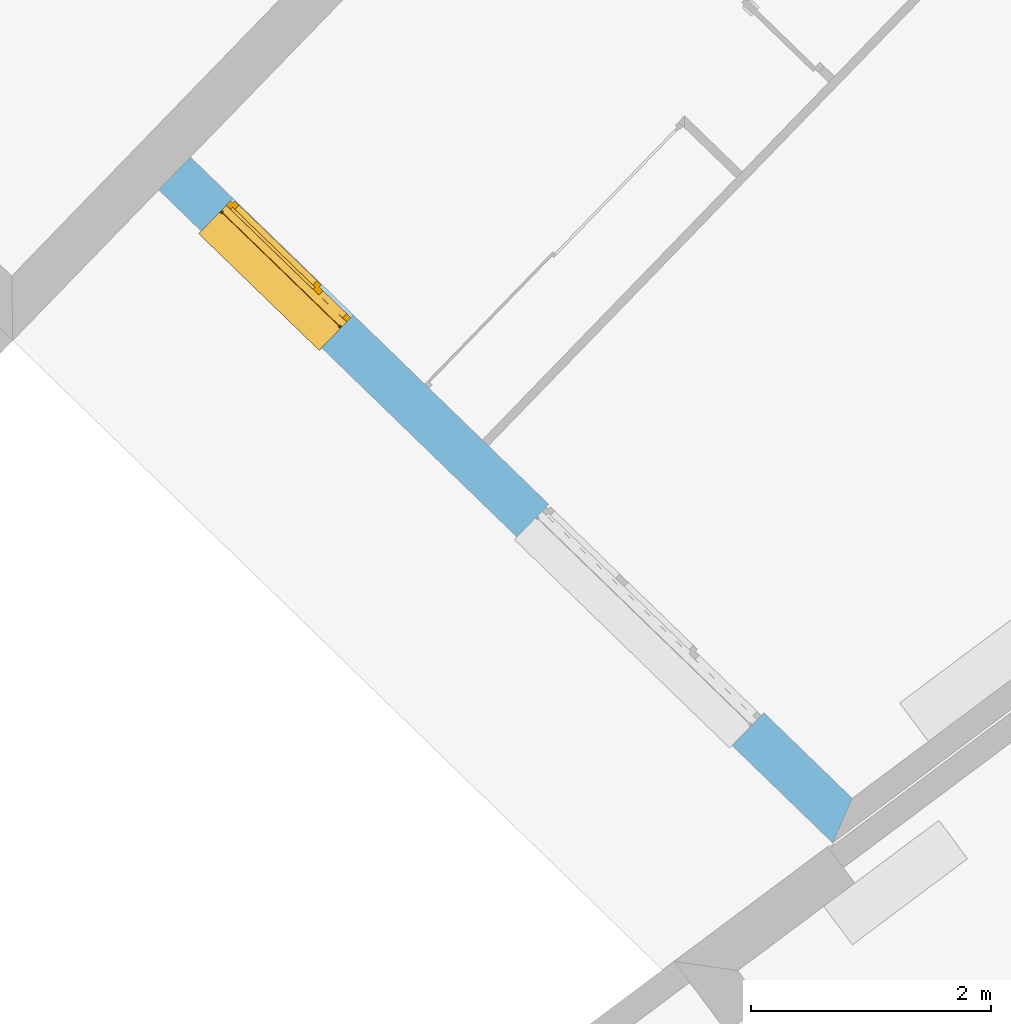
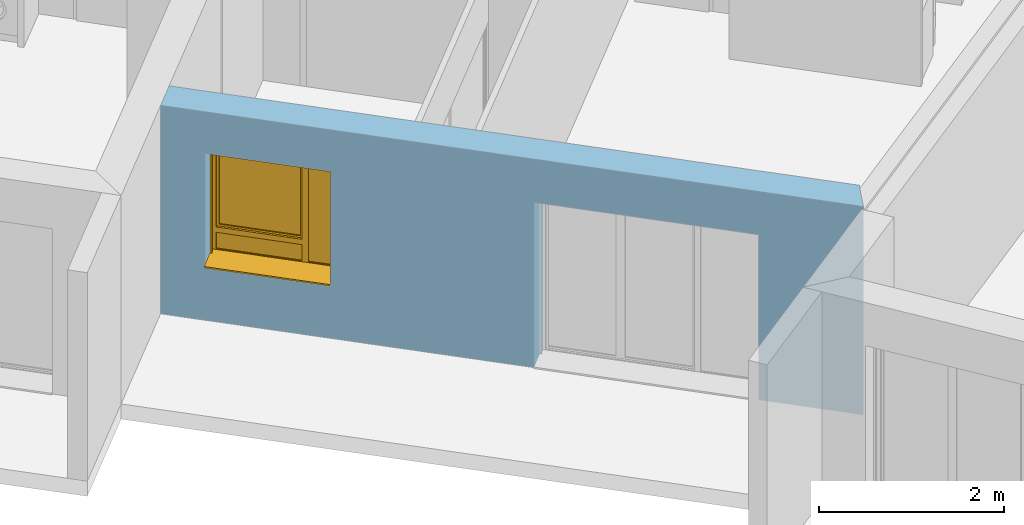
# One storey, part 3 of 195: 1 window, 2 openings, plus 1 element that does not belong to this part.
"""IFC2X3 building model written with IfcOpenShell, lengths in metres."""

from ifc_helpers import new_model, entity, si_unit, converted_unit, derived_unit, money_unit, direction, frame, origin_with_axes, place, context, subcontext, project, spatial, polyline, outline, extrude, open_shell, faceted_brep, surface_model, source, transform, mapped, material, layer, layer_set, layer_usage, type_object, element, fill, save


model = new_model("IFC2X3")

# Units and contexts
model_context = context("Model", 3, precision=1e-05, world=origin_with_axes(), true_north=direction((0.0, 1.0)))
body_context = subcontext(model_context, "Body", "Model", "MODEL_VIEW")
ifc_project = project(units=[si_unit("LENGTHUNIT", "METRE"), si_unit("AREAUNIT", "SQUARE_METRE"), si_unit("VOLUMEUNIT", "CUBIC_METRE"), converted_unit("PLANEANGLEUNIT", "DEGREE", entity("IfcPlaneAngleMeasure", 0.0174532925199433), si_unit("PLANEANGLEUNIT", "RADIAN"), dimensions=[0, 0, 0, 0, 0, 0, 0]), money_unit("CHF"), converted_unit("TIMEUNIT", "Year", entity("IfcTimeMeasure", 31557600.0), si_unit("TIMEUNIT", "SECOND"), dimensions=[0, 0, 1, 0, 0, 0, 0]), si_unit("MASSUNIT", "GRAM", prefix="KILO"), si_unit("THERMODYNAMICTEMPERATUREUNIT", "DEGREE_CELSIUS"), si_unit("LUMINOUSINTENSITYUNIT", "LUMEN"), si_unit("ENERGYUNIT", "JOULE", prefix="MEGA"), derived_unit("THERMALCONDUCTANCEUNIT", [(si_unit("POWERUNIT", "WATT"), 1), (si_unit("LENGTHUNIT", "METRE"), -1), (si_unit("THERMODYNAMICTEMPERATUREUNIT", "KELVIN"), -1)]), derived_unit("SPECIFICHEATCAPACITYUNIT", [(si_unit("ENERGYUNIT", "JOULE"), 1), (si_unit("MASSUNIT", "GRAM", prefix="KILO"), -1), (si_unit("THERMODYNAMICTEMPERATUREUNIT", "KELVIN"), -1)]), derived_unit("MASSDENSITYUNIT", [(si_unit("MASSUNIT", "GRAM", prefix="KILO"), 1), (si_unit("VOLUMEUNIT", "CUBIC_METRE"), -1)])], contexts=[model_context])

# Site, building, storey
site_placement = place(None, origin_with_axes())
site = spatial("IfcSite", under=ifc_project, at=site_placement, Name="Site", CompositionType="ELEMENT")
building_placement = place(site_placement, origin_with_axes())
building = spatial("IfcBuilding", under=site, at=building_placement, Name="Bâtiment", CompositionType="ELEMENT")
storey_placement = place(building_placement, origin_with_axes())
storey = spatial("IfcBuildingStorey", under=building, at=storey_placement, Name="rdc", CompositionType="ELEMENT", Elevation=0.0)

# Wall, openings, window
ifc_material_1 = material(Name="Parpaing 312445824")
ifc_layer_1 = layer(ifc_material_1, 0.22, ventilated="UNKNOWN")
ifc_material_2 = material(Name="Isolant styromousse 301821074")
ifc_layer_2 = layer(ifc_material_2, 0.16, ventilated="UNKNOWN")
ifc_layer_set = layer_set([ifc_layer_1, ifc_layer_2], Name="isol int 22+16 0836643197")
ifc_layer_usage = layer_usage(ifc_layer_set, "AXIS2", "POSITIVE", 0.0)
wall_type = type_object("IfcWallType", Name="isol int 22+16 0836643197 380", PredefinedType="NOTDEFINED")
wall_placement = place(storey_placement, frame((9523.941571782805, -1070.182928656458, 57.7), z_axis=(0.0, 0.0, 1.0), x_axis=(0.71817639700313, -0.6958610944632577, 0.0)))
wall = element("IfcWallStandardCase", 1, at=wall_placement, inside=storey, type_object=wall_type, material=ifc_layer_usage, Name="Mur-113", context=body_context, shape_type="SweptSolid", body=[
    extrude(outline(polyline([(2.100932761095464e-10, 0.0), (7.831839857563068, 0.0), (7.690439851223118, 0.3799999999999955), (2.296474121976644e-10, 0.3799999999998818), (2.100932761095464e-10, 0.0)])), origin_with_axes(), (0.0, 0.0, 1.0), 2.75),
])
opening_1_placement = place(wall_placement, frame((1.194223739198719, 0.0, 0.7000000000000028), z_axis=(0.0, 0.0, 1.0), x_axis=(1.0, 0.0, 0.0)))
opening_1 = element("IfcOpeningElement", 2, at=opening_1_placement, cuts=wall, Name="Fen-045", context=body_context, shape_type="Brep", body=[
    faceted_brep([(-0.7000000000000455, 0.480000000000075, 1.5), (0.7000000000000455, 0.4800000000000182, 1.5), (0.7000000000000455, 4.193732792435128, 1.5), (-0.6999999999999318, 4.193732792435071, 1.5), (-0.7000000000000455, 0.480000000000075, 1.700000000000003), (0.7000000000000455, 0.4800000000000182, 1.700000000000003), (0.6999999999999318, 0.3000000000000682, 1.5), (0.7000000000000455, 0.3000000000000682, 0.0), (0.7000000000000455, 4.193732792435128, 0.0), (-0.6999999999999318, 4.193732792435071, 0.0), (-0.7000000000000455, 0.2999999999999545, 1.5), (-0.7000000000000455, 0.3000000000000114, 0.0), (-0.7000000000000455, 0.2200000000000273, 1.5), (-0.7000000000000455, 0.2200000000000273, 1.700000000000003), (0.7000000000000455, 0.2199999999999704, 1.700000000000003), (0.7000000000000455, 0.2199999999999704, 1.5), (0.7000000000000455, -3.813732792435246, 1.5), (0.7000000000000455, -3.813732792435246, 0.0), (-0.6999999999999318, -3.81373279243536, 0.0), (-0.6999999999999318, -3.81373279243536, 1.5)], [[[0, 1, 2, 3]], [[1, 0, 4, 5]], [[1, 6, 7, 8, 2]], [[2, 8, 9, 3]], [[10, 0, 3, 9, 11]], [[0, 10, 12, 13, 4]], [[14, 5, 4, 13]], [[6, 1, 5, 14, 15]], [[6, 15, 16, 17, 7]], [[7, 11, 9, 8]], [[12, 10, 11, 18, 19]], [[12, 15, 14, 13]], [[15, 12, 19, 16]], [[19, 18, 17, 16]], [[11, 7, 17, 18]]]),
])
opening_2_placement = place(wall_placement, frame((5.413572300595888, 0.0, 0.0), z_axis=(0.0, 0.0, 1.0), x_axis=(1.0, 0.0, 0.0)))
element("IfcOpeningElement", 3, at=opening_2_placement, cuts=wall, Name="Fen-045", context=body_context, shape_type="Brep", body=[
    faceted_brep([(-1.25, 0.4799999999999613, 2.18), (1.249999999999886, 0.4799999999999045, 2.18), (1.25, 4.193732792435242, 2.18), (-1.250000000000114, 4.193732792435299, 2.18), (-1.25, 0.4799999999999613, 2.380000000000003), (1.249999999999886, 0.4799999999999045, 2.380000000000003), (1.249999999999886, 0.2999999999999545, 2.18), (1.249999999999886, 0.2999999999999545, 0.0), (1.25, 4.193732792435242, 0.0), (-1.250000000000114, 4.193732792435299, 0.0), (-1.250000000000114, 0.3000000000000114, 2.18), (-1.250000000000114, 0.3000000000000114, 0.0), (-1.250000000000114, 0.2199999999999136, 2.18), (-1.250000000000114, 0.2199999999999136, 2.380000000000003), (1.249999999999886, 0.2199999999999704, 2.380000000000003), (1.249999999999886, 0.2199999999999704, 2.18), (1.249999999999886, -3.813732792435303, 2.18), (1.249999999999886, -3.813732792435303, 0.0), (-1.250000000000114, -3.813732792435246, 0.0), (-1.250000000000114, -3.813732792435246, 2.18)], [[[0, 1, 2, 3]], [[1, 0, 4, 5]], [[1, 6, 7, 8, 2]], [[2, 8, 9, 3]], [[10, 0, 3, 9, 11]], [[0, 10, 12, 13, 4]], [[14, 5, 4, 13]], [[6, 1, 5, 14, 15]], [[6, 15, 16, 17, 7]], [[7, 11, 9, 8]], [[12, 10, 11, 18, 19]], [[12, 15, 14, 13]], [[15, 12, 19, 16]], [[19, 18, 17, 16]], [[11, 7, 17, 18]]]),
])
window_style = type_object("IfcWindowStyle", Name="Fenêtre variable 27", ConstructionType="NOTDEFINED", OperationType="TRIPLE_PANEL_RIGHT", ParameterTakesPrecedence=False, Sizeable=False)
shared_shape = source(origin_with_axes(), body_context, "Body", "SurfaceModel", [
    surface_model("IfcShellBasedSurfaceModel", [(-0.7, -0.05100000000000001, 0.05), (-0.7, -0.05100000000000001, 0.04), (0.7, -0.05100000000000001, 0.04000000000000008), (0.7, -0.05100000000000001, 0.05000000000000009), (-0.7, -0.3799999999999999, 0.02899999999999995), (0.7, -0.3799999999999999, 0.02900000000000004), (-0.7, -0.3799999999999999, 0.008999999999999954), (0.7, -0.3799999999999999, 0.00900000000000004), (-0.7, -0.3699999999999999, 0.01899999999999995), (0.7, -0.3699999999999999, 0.01900000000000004)], [open_shell([[[0, 1, 2, 3]], [[1, 4, 5, 2]], [[4, 6, 7, 5]], [[6, 8, 9, 7]]])]),
    faceted_brep([(-0.7, -0.13, 1.7), (-0.697, -0.13, 1.7), (-0.697, 0.13, 1.7), (-0.7, 0.13, 1.7), (-0.7, -0.13, 1.5), (-0.697, -0.13, 1.5), (-0.697, 0.13, 1.5), (-0.7, 0.13, 1.5)], [[[0, 1, 2, 3]], [[4, 5, 1, 0]], [[1, 5, 6, 2]], [[3, 2, 6, 7]], [[0, 3, 7, 4]], [[7, 6, 5, 4]]]),
    faceted_brep([(0.6970000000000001, -0.1299999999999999, 1.7), (0.7000000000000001, -0.1299999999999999, 1.7), (0.7000000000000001, 0.1300000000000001, 1.7), (0.6970000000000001, 0.1300000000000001, 1.7), (0.6970000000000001, -0.1299999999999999, 1.5), (0.7000000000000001, -0.1299999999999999, 1.5), (0.7000000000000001, 0.1300000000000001, 1.5), (0.6970000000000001, 0.1300000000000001, 1.5)], [[[0, 1, 2, 3]], [[4, 5, 1, 0]], [[1, 5, 6, 2]], [[3, 2, 6, 7]], [[0, 3, 7, 4]], [[7, 6, 5, 4]]]),
    faceted_brep([(-0.697, -0.13, 1.5), (0.697, -0.1299999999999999, 1.5), (0.697, -0.1299999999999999, 1.7), (-0.697, -0.13, 1.7), (-0.697, -0.127, 1.5), (0.697, -0.1269999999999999, 1.5), (0.697, -0.1269999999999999, 1.697), (0.697, 0.1270000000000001, 1.697), (0.697, 0.1270000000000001, 1.503), (0.697, -0.1079999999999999, 1.503), (0.697, -0.1079999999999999, 1.5), (0.697, 0.1300000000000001, 1.5), (0.697, 0.1300000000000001, 1.7), (-0.697, 0.13, 1.7), (-0.697, 0.13, 1.5), (-0.697, -0.108, 1.5), (-0.697, -0.108, 1.503), (-0.697, 0.127, 1.503), (-0.697, 0.127, 1.697), (-0.697, -0.127, 1.697)], [[[0, 1, 2, 3]], [[4, 5, 1, 0]], [[1, 5, 6, 7, 8, 9, 10, 11, 12, 2]], [[3, 2, 12, 13]], [[0, 3, 13, 14, 15, 16, 17, 18, 19, 4]], [[19, 6, 5, 4]], [[18, 7, 6, 19]], [[17, 8, 7, 18]], [[16, 9, 8, 17]], [[15, 10, 9, 16]], [[14, 11, 10, 15]], [[13, 12, 11, 14]]]),
    faceted_brep([(-0.694, -0.08075423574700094, 1.585760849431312), (-0.694, -0.08200000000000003, 1.6), (-0.694, -0.0807542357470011, 1.614239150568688), (-0.694, -0.07705479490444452, 1.628045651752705), (-0.694, -0.07101408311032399, 1.641), (-0.694, -0.06281564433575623, 1.652708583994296), (-0.694, -0.05270858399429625, 1.662815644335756), (-0.694, -0.04100000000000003, 1.671014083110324), (-0.694, -0.02804565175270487, 1.677054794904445), (-0.694, -0.01423915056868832, 1.680754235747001), (-0.694, 0.0, 1.682), (-0.694, 0.01423915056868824, 1.680754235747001), (-0.694, 0.02804565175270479, 1.677054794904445), (-0.694, 0.04099999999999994, 1.671014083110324), (-0.694, 0.05270858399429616, 1.662815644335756), (-0.694, 0.06281564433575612, 1.652708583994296), (-0.694, 0.07101408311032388, 1.641), (-0.694, 0.0770547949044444, 1.628045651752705), (-0.694, 0.08075423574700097, 1.614239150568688), (-0.694, 0.0819999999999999, 1.6), (-0.694, 0.08075423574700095, 1.585760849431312), (-0.694, 0.07705479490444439, 1.571954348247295), (-0.694, 0.07101408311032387, 1.559), (-0.694, 0.06281564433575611, 1.547291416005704), (-0.694, 0.05270858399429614, 1.537184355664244), (-0.694, 0.04099999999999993, 1.528985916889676), (-0.694, 0.02804565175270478, 1.522945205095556), (-0.694, 0.01423915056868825, 1.519245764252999), (-0.694, 0.0, 1.518), (-0.694, -0.01423915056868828, 1.519245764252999), (-0.694, -0.02804565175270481, 1.522945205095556), (-0.694, -0.04099999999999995, 1.528985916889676), (-0.694, -0.05270858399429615, 1.537184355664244), (-0.694, -0.06281564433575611, 1.547291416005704), (-0.694, -0.07101408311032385, 1.559), (-0.694, -0.07705479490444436, 1.571954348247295), (0.694, -0.08075423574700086, 1.585760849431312), (0.694, -0.08199999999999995, 1.6), (0.694, -0.08075423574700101, 1.614239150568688), (0.694, -0.07705479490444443, 1.628045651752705), (0.694, -0.07101408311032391, 1.641), (0.694, -0.06281564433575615, 1.652708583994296), (0.694, -0.05270858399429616, 1.662815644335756), (0.694, -0.04099999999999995, 1.671014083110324), (0.694, -0.02804565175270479, 1.677054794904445), (0.694, -0.01423915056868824, 1.680754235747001), (0.694, 0.0, 1.682), (0.694, 0.01423915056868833, 1.680754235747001), (0.694, 0.02804565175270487, 1.677054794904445), (0.694, 0.04100000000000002, 1.671014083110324), (0.694, 0.05270858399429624, 1.662815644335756), (0.694, 0.0628156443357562, 1.652708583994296), (0.694, 0.07101408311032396, 1.641), (0.694, 0.07705479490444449, 1.628045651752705), (0.694, 0.08075423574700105, 1.614239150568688), (0.694, 0.08199999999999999, 1.6), (0.694, 0.08075423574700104, 1.585760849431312), (0.694, 0.07705479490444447, 1.571954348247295), (0.694, 0.07101408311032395, 1.559), (0.694, 0.06281564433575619, 1.547291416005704), (0.694, 0.05270858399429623, 1.537184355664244), (0.694, 0.04100000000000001, 1.528985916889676), (0.694, 0.02804565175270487, 1.522945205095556), (0.694, 0.01423915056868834, 1.519245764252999), (0.694, 0.0, 1.518), (0.694, -0.0142391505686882, 1.519245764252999), (0.694, -0.02804565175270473, 1.522945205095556), (0.694, -0.04099999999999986, 1.528985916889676), (0.694, -0.05270858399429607, 1.537184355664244), (0.694, -0.06281564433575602, 1.547291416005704), (0.694, -0.07101408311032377, 1.559), (0.694, -0.07705479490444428, 1.571954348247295)], [[[0, 1, 2, 3, 4, 5, 6, 7, 8, 9, 10, 11, 12, 13, 14, 15, 16, 17, 18, 19, 20, 21, 22, 23, 24, 25, 26, 27, 28, 29, 30, 31, 32, 33, 34, 35]], [[0, 36, 37, 1]], [[1, 37, 38, 2]], [[2, 38, 39, 3]], [[3, 39, 40, 4]], [[4, 40, 41, 5]], [[5, 41, 42, 6]], [[6, 42, 43, 7]], [[7, 43, 44, 8]], [[8, 44, 45, 9]], [[9, 45, 46, 10]], [[10, 46, 47, 11]], [[11, 47, 48, 12]], [[12, 48, 49, 13]], [[13, 49, 50, 14]], [[14, 50, 51, 15]], [[15, 51, 52, 16]], [[16, 52, 53, 17]], [[17, 53, 54, 18]], [[18, 54, 55, 19]], [[19, 55, 56, 20]], [[20, 56, 57, 21]], [[21, 57, 58, 22]], [[22, 58, 59, 23]], [[23, 59, 60, 24]], [[24, 60, 61, 25]], [[25, 61, 62, 26]], [[26, 62, 63, 27]], [[27, 63, 64, 28]], [[28, 64, 65, 29]], [[29, 65, 66, 30]], [[30, 66, 67, 31]], [[31, 67, 68, 32]], [[32, 68, 69, 33]], [[33, 69, 70, 34]], [[34, 70, 71, 35]], [[35, 71, 36, 0]], [[36, 71, 70, 69, 68, 67, 66, 65, 64, 63, 62, 61, 60, 59, 58, 57, 56, 55, 54, 53, 52, 51, 50, 49, 48, 47, 46, 45, 44, 43, 42, 41, 40, 39, 38, 37]]]),
    faceted_brep([(0.7, -0.105, 0.03), (0.7, -0.1049999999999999, 1.5), (0.7, -0.1299999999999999, 1.5), (0.7, -0.13, 0.03), (0.6749999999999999, -0.105, 0.03), (0.6749999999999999, -0.1049999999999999, 1.5), (0.6749999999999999, -0.1079999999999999, 1.5), (0.697, -0.1079999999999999, 1.5), (0.697, -0.1269999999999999, 1.5), (0.6749999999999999, -0.1269999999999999, 1.5), (0.6749999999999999, -0.1299999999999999, 1.5), (0.6749999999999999, -0.13, 0.03), (0.6749999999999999, -0.127, 0.03), (0.697, -0.127, 0.03), (0.697, -0.108, 0.03), (0.6749999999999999, -0.108, 0.03)], [[[0, 1, 2, 3]], [[4, 5, 1, 0]], [[1, 5, 6, 7, 8, 9, 10, 2]], [[3, 2, 10, 11]], [[0, 3, 11, 12, 13, 14, 15, 4]], [[15, 6, 5, 4]], [[14, 7, 6, 15]], [[13, 8, 7, 14]], [[12, 9, 8, 13]], [[11, 10, 9, 12]]]),
    faceted_brep([(-0.7, -0.105, 0.03), (-0.7, -0.13, 0.03), (-0.7, -0.1299999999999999, 1.5), (-0.7, -0.1049999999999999, 1.5), (-0.6749999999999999, -0.105, 0.03), (-0.6749999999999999, -0.108, 0.03), (-0.697, -0.108, 0.03), (-0.697, -0.127, 0.03), (-0.6749999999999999, -0.127, 0.03), (-0.6749999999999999, -0.13, 0.03), (-0.6749999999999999, -0.1299999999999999, 1.5), (-0.6749999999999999, -0.1269999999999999, 1.5), (-0.697, -0.1269999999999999, 1.5), (-0.697, -0.1079999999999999, 1.5), (-0.6749999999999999, -0.1079999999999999, 1.5), (-0.6749999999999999, -0.1049999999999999, 1.5)], [[[0, 1, 2, 3]], [[0, 4, 5, 6, 7, 8, 9, 1]], [[1, 9, 10, 2]], [[3, 2, 10, 11, 12, 13, 14, 15]], [[4, 0, 3, 15]], [[5, 4, 15, 14]], [[6, 5, 14, 13]], [[7, 6, 13, 12]], [[8, 7, 12, 11]], [[9, 8, 11, 10]]]),
    surface_model("IfcShellBasedSurfaceModel", [(-0.697, -0.115, 1.6), (0.697, -0.1149999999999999, 1.6), (0.697, -0.1199999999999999, 1.6), (-0.697, -0.12, 1.6), (-0.697, -0.115, 1.6), (-0.697, -0.12, 1.6), (0.697, -0.12, 1.6), (0.697, -0.1149999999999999, 1.6)], [open_shell([[[0, 1, 2, 3]], [[4, 5, 6, 7]]])]),
    faceted_brep([(-0.697, -0.115, 1.6), (0.697, -0.1149999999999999, 1.6), (0.697, -0.1166666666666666, 1.583333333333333), (-0.697, -0.1166666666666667, 1.583333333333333), (-0.697, -0.12, 1.6), (0.697, -0.1199999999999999, 1.6), (0.697, -0.1216666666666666, 1.583333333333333), (0.697, -0.1216666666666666, 1.566666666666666), (0.697, -0.1199999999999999, 1.55), (0.697, -0.1149999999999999, 1.55), (0.697, -0.1166666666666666, 1.566666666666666), (-0.697, -0.1166666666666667, 1.566666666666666), (-0.697, -0.115, 1.55), (-0.697, -0.12, 1.55), (-0.697, -0.1216666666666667, 1.566666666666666), (-0.697, -0.1216666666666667, 1.583333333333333)], [[[0, 1, 2, 3]], [[4, 5, 1, 0]], [[1, 5, 6, 7, 8, 9, 10, 2]], [[3, 2, 10, 11]], [[0, 3, 11, 12, 13, 14, 15, 4]], [[15, 6, 5, 4]], [[14, 7, 6, 15]], [[13, 8, 7, 14]], [[12, 9, 8, 13]], [[11, 10, 9, 12]]]),
    faceted_brep([(-0.697, -0.115, 1.55), (0.697, -0.1149999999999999, 1.55), (0.697, -0.1166666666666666, 1.533333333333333), (-0.697, -0.1166666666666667, 1.533333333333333), (-0.697, -0.12, 1.55), (0.697, -0.1199999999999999, 1.55), (0.697, -0.1216666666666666, 1.533333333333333), (0.697, -0.1216666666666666, 1.516666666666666), (0.697, -0.1199999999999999, 1.5), (0.697, -0.1149999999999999, 1.5), (0.697, -0.1166666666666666, 1.516666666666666), (-0.697, -0.1166666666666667, 1.516666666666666), (-0.697, -0.115, 1.5), (-0.697, -0.12, 1.5), (-0.697, -0.1216666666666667, 1.516666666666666), (-0.697, -0.1216666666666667, 1.533333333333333)], [[[0, 1, 2, 3]], [[4, 5, 1, 0]], [[1, 5, 6, 7, 8, 9, 10, 2]], [[3, 2, 10, 11]], [[0, 3, 11, 12, 13, 14, 15, 4]], [[15, 6, 5, 4]], [[14, 7, 6, 15]], [[13, 8, 7, 14]], [[12, 9, 8, 13]], [[11, 10, 9, 12]]]),
    faceted_brep([(-0.6749999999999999, 0.0, 1.45), (-0.7, 0.0, 1.45), (-0.7, -0.05000000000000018, 1.45), (-0.6499999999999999, -0.05000000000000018, 1.45), (-0.6499999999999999, -0.02500000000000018, 1.45), (-0.6749999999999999, -0.02500000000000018, 1.45), (-0.6749999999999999, 0.0, 0.3099999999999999), (-0.6499999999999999, 0.0, 0.3099999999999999), (-0.6499999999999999, 0.0, 0.265), (-0.6499999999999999, 0.0, 0.05000000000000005), (-0.7, 0.0, 0.05000000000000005), (-0.7, -0.05000000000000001, 0.05000000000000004), (-0.6499999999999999, -0.05000000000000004, 0.335), (-0.6499999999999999, -0.05000000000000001, 0.05000000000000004), (-0.6499999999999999, -0.05000000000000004, 0.265), (-0.6499999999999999, -0.02500000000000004, 0.335), (-0.6499999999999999, -0.02500000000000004, 0.3099999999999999), (-0.6749999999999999, -0.02500000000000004, 0.3099999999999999)], [[[0, 1, 2, 3, 4, 5]], [[6, 7, 8, 9, 10, 1, 0]], [[1, 10, 11, 2]], [[12, 3, 2, 11, 13, 14]], [[4, 3, 12, 15]], [[15, 16, 17, 5, 4]], [[5, 17, 6, 0]], [[6, 17, 16, 7]], [[16, 15, 12, 14, 8, 7]], [[9, 8, 14, 13]], [[10, 9, 13, 11]]]),
    faceted_brep([(0.3068894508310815, -0.02500000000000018, 1.45), (0.3068894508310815, -0.05000000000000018, 1.45), (0.3768894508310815, -0.05000000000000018, 1.45), (0.3768894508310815, 0.0, 1.45), (0.3318894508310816, 0.0, 1.45), (0.3318894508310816, -0.02500000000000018, 1.45), (0.3068894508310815, -0.02500000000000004, 0.335), (0.3068894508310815, -0.05000000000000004, 0.335), (0.3068894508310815, -0.05000000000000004, 0.265), (0.3068894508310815, -0.05000000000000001, 0.05000000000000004), (0.3768894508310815, -0.05000000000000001, 0.05000000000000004), (0.3768894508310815, 0.0, 0.05000000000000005), (0.3318894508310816, 0.0, 0.3099999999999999), (0.3068894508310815, 0.0, 0.05000000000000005), (0.3068894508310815, 0.0, 0.265), (0.3068894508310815, 0.0, 0.3099999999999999), (0.3318894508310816, -0.02500000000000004, 0.3099999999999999), (0.3068894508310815, -0.02500000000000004, 0.3099999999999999)], [[[0, 1, 2, 3, 4, 5]], [[6, 7, 1, 0]], [[8, 9, 10, 2, 1, 7]], [[11, 3, 2, 10]], [[12, 4, 3, 11, 13, 14, 15]], [[12, 16, 5, 4]], [[5, 16, 17, 6, 0]], [[17, 15, 14, 8, 7, 6]], [[14, 13, 9, 8]], [[13, 11, 10, 9]], [[15, 17, 16, 12]]]),
    faceted_brep([(-0.6499999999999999, -0.02500000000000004, 0.335), (-0.6499999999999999, -0.05000000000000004, 0.335), (0.3068894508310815, -0.05000000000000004, 0.335), (0.3068894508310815, -0.02500000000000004, 0.335), (-0.6499999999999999, -0.02500000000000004, 0.3099999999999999), (-0.6499999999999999, 0.0, 0.3099999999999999), (-0.6499999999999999, 0.0, 0.265), (-0.6499999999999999, -0.05000000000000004, 0.265), (0.3068894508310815, -0.05000000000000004, 0.265), (0.3068894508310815, -0.02500000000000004, 0.3099999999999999), (0.3068894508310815, 0.0, 0.265), (0.3068894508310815, 0.0, 0.3099999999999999)], [[[0, 1, 2, 3]], [[4, 5, 6, 7, 1, 0]], [[2, 1, 7, 8]], [[9, 3, 2, 8, 10, 11]], [[9, 4, 0, 3]], [[5, 4, 9, 11]], [[11, 10, 6, 5]], [[6, 10, 8, 7]]]),
    faceted_brep([(-0.6749999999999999, 0.0, 1.45), (-0.7, 0.0, 1.45), (-0.7, 0.0, 1.5), (0.7, 0.0, 1.5), (0.7, 0.0, 1.45), (0.6499999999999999, 0.0, 1.45), (0.3768894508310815, 0.0, 1.45), (0.3318894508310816, 0.0, 1.45), (0.3318894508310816, 0.0, 1.475), (-0.6749999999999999, 0.0, 1.475), (-0.6749999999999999, -0.02500000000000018, 1.45), (-0.6499999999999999, -0.02500000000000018, 1.45), (-0.6499999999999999, -0.05000000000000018, 1.45), (-0.7, -0.05000000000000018, 1.45), (-0.7, -0.05000000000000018, 1.5), (0.7, -0.05000000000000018, 1.5), (0.7, -0.05000000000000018, 1.45), (0.6499999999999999, -0.05000000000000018, 1.45), (0.3768894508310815, -0.05000000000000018, 1.45), (0.3318894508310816, -0.02500000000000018, 1.45), (0.3068894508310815, -0.05000000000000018, 1.45), (0.3068894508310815, -0.02500000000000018, 1.45), (0.3318894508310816, -0.02500000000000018, 1.475), (-0.6749999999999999, -0.02500000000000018, 1.475)], [[[0, 1, 2, 3, 4, 5, 6, 7, 8, 9]], [[10, 11, 12, 13, 1, 0]], [[2, 1, 13, 14]], [[3, 2, 14, 15]], [[4, 3, 15, 16]], [[5, 4, 16, 17]], [[6, 5, 17, 18]], [[19, 7, 6, 18, 20, 21]], [[7, 19, 22, 8]], [[8, 22, 23, 9]], [[9, 23, 10, 0]], [[21, 11, 10, 23, 22, 19]], [[21, 20, 12, 11]], [[18, 17, 16, 15, 14, 13, 12, 20]]]),
    faceted_brep([(0.6499999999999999, -0.05000000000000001, 0.05), (0.6499999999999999, 0.0, 0.05000000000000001), (0.7, 0.0, 0.05000000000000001), (0.7, -0.05000000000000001, 0.05), (0.6499999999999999, -0.05000000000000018, 1.45), (0.6499999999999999, 0.0, 1.45), (0.7, 0.0, 1.45), (0.7, -0.05000000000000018, 1.45)], [[[0, 1, 2, 3]], [[4, 5, 1, 0]], [[1, 5, 6, 2]], [[3, 2, 6, 7]], [[0, 3, 7, 4]], [[7, 6, 5, 4]]]),
    faceted_brep([(-0.6499999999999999, -0.05000000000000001, 0.05), (-0.6499999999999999, 0.0, 0.05000000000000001), (-0.7, 0.0, 0.05000000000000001), (-0.7, -0.05000000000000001, 0.05), (0.3068894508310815, -0.05000000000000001, 0.05), (0.3068894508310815, 0.0, 0.05000000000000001), (0.3768894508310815, 0.0, 0.05000000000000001), (0.6499999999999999, 0.0, 0.05000000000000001), (0.7, 0.0, 0.05000000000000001), (0.7, 0.0, 0.0), (-0.7, 0.0, 0.0), (-0.7, -0.05, 0.0), (0.7, -0.05, 0.0), (0.7, -0.05000000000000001, 0.05), (0.6499999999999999, -0.05000000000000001, 0.05), (0.3768894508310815, -0.05000000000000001, 0.05)], [[[0, 1, 2, 3]], [[4, 5, 1, 0]], [[1, 5, 6, 7, 8, 9, 10, 2]], [[3, 2, 10, 11]], [[0, 3, 11, 12, 13, 14, 15, 4]], [[15, 6, 5, 4]], [[14, 7, 6, 15]], [[13, 8, 7, 14]], [[12, 9, 8, 13]], [[11, 10, 9, 12]]]),
    faceted_brep([(-0.625, -0.02500000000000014, 1.425), (-0.625, 0.02499999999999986, 1.425), (-0.6749999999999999, 0.02499999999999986, 1.425), (-0.6749999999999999, -0.02500000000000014, 1.425), (-0.625, -0.02500000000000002, 0.3599999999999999), (-0.625, 0.02499999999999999, 0.3599999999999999), (-0.6749999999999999, 0.02499999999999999, 0.3599999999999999), (-0.6749999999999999, -0.02500000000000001, 0.3599999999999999)], [[[0, 1, 2, 3]], [[4, 5, 1, 0]], [[1, 5, 6, 2]], [[3, 2, 6, 7]], [[0, 3, 7, 4]], [[7, 6, 5, 4]]]),
    faceted_brep([(0.2818894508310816, -0.02500000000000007, 0.3599999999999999), (0.2818894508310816, 0.02499999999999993, 0.3599999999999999), (0.3318894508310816, 0.02499999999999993, 0.3599999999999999), (0.3318894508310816, -0.02500000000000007, 0.3599999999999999), (0.2818894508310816, -0.0250000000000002, 1.425), (0.2818894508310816, 0.0249999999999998, 1.425), (0.3318894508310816, 0.0249999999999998, 1.425), (0.3318894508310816, -0.0250000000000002, 1.425)], [[[0, 1, 2, 3]], [[4, 5, 1, 0]], [[1, 5, 6, 2]], [[3, 2, 6, 7]], [[0, 3, 7, 4]], [[7, 6, 5, 4]]]),
    faceted_brep([(0.3318894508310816, -0.02500000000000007, 0.3099999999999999), (0.3318894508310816, 0.02499999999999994, 0.3099999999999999), (0.3318894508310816, 0.02499999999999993, 0.3599999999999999), (0.3318894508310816, -0.02500000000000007, 0.3599999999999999), (-0.6749999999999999, -0.025, 0.3099999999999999), (-0.6749999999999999, 0.02499999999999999, 0.3099999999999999), (-0.6749999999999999, 0.02499999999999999, 0.3599999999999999), (-0.625, 0.02499999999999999, 0.3599999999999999), (0.2818894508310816, 0.02499999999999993, 0.3599999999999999), (0.2818894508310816, -0.02500000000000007, 0.3599999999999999), (-0.625, -0.02500000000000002, 0.3599999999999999), (-0.6749999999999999, -0.02500000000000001, 0.3599999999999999)], [[[0, 1, 2, 3]], [[4, 5, 1, 0]], [[1, 5, 6, 7, 8, 2]], [[3, 2, 8, 9]], [[0, 3, 9, 10, 11, 4]], [[11, 6, 5, 4]], [[10, 7, 6, 11]], [[9, 8, 7, 10]]]),
    faceted_brep([(-0.6749999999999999, -0.02500000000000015, 1.475), (-0.6749999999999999, 0.02499999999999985, 1.475), (-0.6749999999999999, 0.02499999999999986, 1.425), (-0.6749999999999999, -0.02500000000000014, 1.425), (0.3318894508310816, -0.02500000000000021, 1.475), (0.3318894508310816, 0.02499999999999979, 1.475), (0.3318894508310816, 0.0249999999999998, 1.425), (0.2818894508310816, 0.0249999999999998, 1.425), (-0.625, 0.02499999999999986, 1.425), (-0.625, -0.02500000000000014, 1.425), (0.2818894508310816, -0.0250000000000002, 1.425), (0.3318894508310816, -0.0250000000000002, 1.425)], [[[0, 1, 2, 3]], [[4, 5, 1, 0]], [[1, 5, 6, 7, 8, 2]], [[3, 2, 8, 9]], [[0, 3, 9, 10, 11, 4]], [[11, 6, 5, 4]], [[10, 7, 6, 11]], [[9, 8, 7, 10]]]),
    surface_model("IfcShellBasedSurfaceModel", [(-0.625, -0.01000000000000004, 0.3599999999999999), (0.2818894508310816, -0.01000000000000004, 0.3599999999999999), (0.2818894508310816, -0.01000000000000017, 1.425), (-0.625, -0.01000000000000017, 1.425)], [open_shell([[[0, 1, 2, 3]]])]),
    surface_model("IfcShellBasedSurfaceModel", [(-0.625, 0.009999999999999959, 0.3599999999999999), (-0.625, 0.00999999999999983, 1.425), (0.2818894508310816, 0.00999999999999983, 1.425), (0.2818894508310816, 0.009999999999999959, 0.3599999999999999)], [open_shell([[[0, 1, 2, 3]]])]),
    surface_model("IfcShellBasedSurfaceModel", [(0.3768894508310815, -0.035, 0.05), (0.65, -0.035, 0.05), (0.65, -0.03500000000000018, 1.45), (0.3768894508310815, -0.03500000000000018, 1.45)], [open_shell([[[0, 1, 2, 3]]])]),
    surface_model("IfcShellBasedSurfaceModel", [(0.3768894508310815, -0.015, 0.05), (0.3768894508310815, -0.01500000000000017, 1.45), (0.65, -0.01500000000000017, 1.45), (0.65, -0.015, 0.05)], [open_shell([[[0, 1, 2, 3]]])]),
    surface_model("IfcShellBasedSurfaceModel", [(-0.6499999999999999, -0.035, 0.05), (0.3068894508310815, -0.035, 0.05), (0.3068894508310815, -0.03500000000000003, 0.265), (-0.6499999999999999, -0.03500000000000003, 0.265)], [open_shell([[[0, 1, 2, 3]]])]),
    surface_model("IfcShellBasedSurfaceModel", [(-0.6499999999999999, -0.015, 0.05), (-0.6499999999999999, -0.01500000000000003, 0.265), (0.3068894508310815, -0.01500000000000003, 0.265), (0.3068894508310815, -0.015, 0.05)], [open_shell([[[0, 1, 2, 3]]])]),
])
window_placement = place(opening_1_placement, frame((-0.6999999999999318, 0.0, 0.0), z_axis=(0.0, 0.0, 1.0), x_axis=(1.0, 0.0, 0.0)))
window = element("IfcWindow", 4, at=window_placement, inside=storey, type_object=window_style, Name="Fen-045", OverallHeight=1.5, OverallWidth=1.4, context=body_context, shape_type="MappedRepresentation", body=[
    mapped(shared_shape, transform((0.7000000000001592, 0.3500000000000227, 0.0))),
])
fill(opening_1, window)

save(model, "model.ifc")
